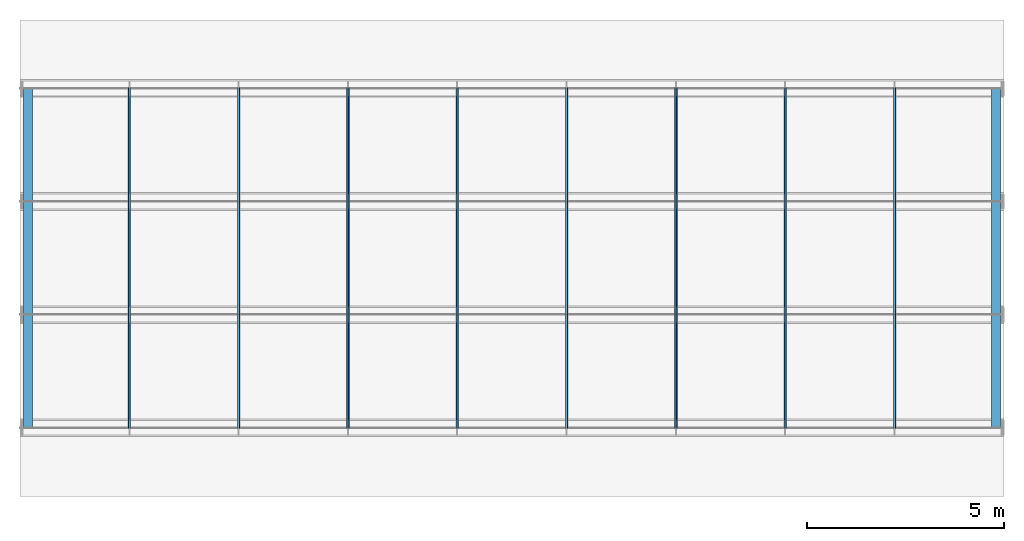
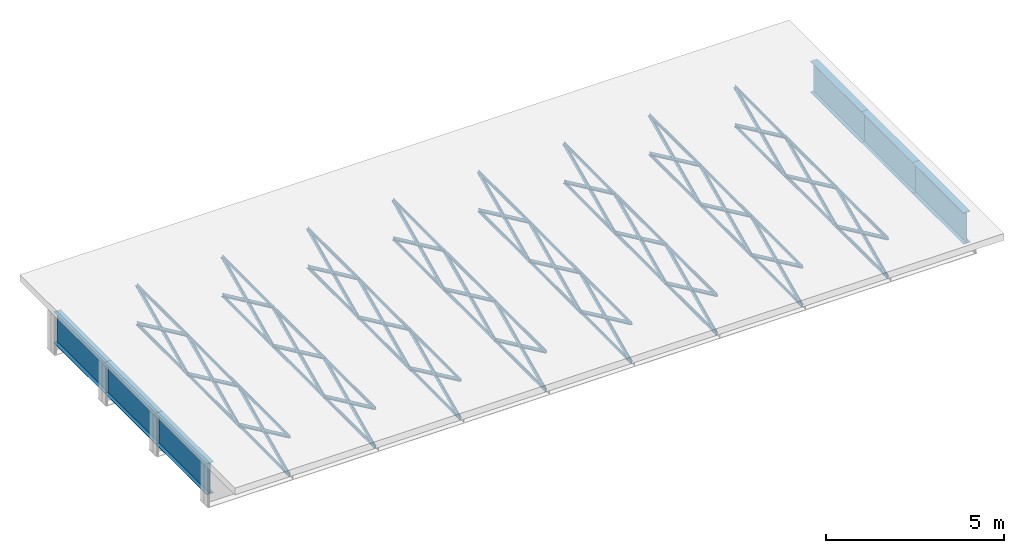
# One storey, part 1 of 10: 102 members.
"""IFC4 building model written with IfcOpenShell, lengths in metres."""

from ifc_helpers import new_model, si_unit, frame, origin, origin_with_axes, origin_2d_with_axis, place, context, subcontext, project, spatial, i_section, l_section, extrude, element, save


model = new_model("IFC4")

# Units and contexts
model_context = context("Model", 3, precision=1e-05, world=origin())
body_context = subcontext(model_context, "Body", "Model", "MODEL_VIEW")
ifc_project = project(units=[si_unit("LENGTHUNIT", "METRE"), si_unit("AREAUNIT", "SQUARE_METRE"), si_unit("VOLUMEUNIT", "CUBIC_METRE"), si_unit("PLANEANGLEUNIT", "RADIAN")], contexts=[model_context])

# Site, building, storey
site_placement = place(None, origin_with_axes())
site = spatial("IfcSite", under=ifc_project, at=site_placement, Name="Default Site")
building_placement = place(site_placement, origin_with_axes())
building = spatial("IfcBuilding", under=site, at=building_placement, Name="Bridge Structure")
storey_placement = place(building_placement, origin_with_axes())
storey = spatial("IfcBuildingStorey", under=building, at=storey_placement, Name="Superstructure")

# Members
for number, where, z_axis, x_axis, name in (
    (1, (0.2, -4.3125, 0.134), (0.0, 1.0, 0.0), (-1.0, 0.0, 0.0), "End Diaphragm"),
    (2, (0.2, -1.4375, 0.134), (0.0, 1.0, 0.0), (-1.0, 0.0, 0.0), "End Diaphragm"),
    (3, (0.2, 1.4375, 0.134), (0.0, 1.0, 0.0), (-1.0, 0.0, 0.0), "End Diaphragm"),
):
    element("IfcMember", number, at=place(storey_placement, frame(where, z_axis=z_axis, x_axis=x_axis)), inside=storey, Name=name, context=body_context, shape_type="SweptSolid", body=[
        extrude(i_section(OverallWidth=0.225, OverallDepth=1.069, WebThickness=0.012, FlangeThickness=0.012, at=origin_2d_with_axis()), origin_with_axes(), (0.0, 0.0, 1.0), 2.875),
    ])
for number, where, z_axis, x_axis, name in (
    (4, (2.7777777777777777, -4.3125, 0.6685), (0.0, 0.9067463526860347, -0.4216764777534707), (-1.0, 0.0, 0.0), "Diagonal Brace"),
    (5, (2.7777777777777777, -4.3125, -0.6685), (0.0, 0.9067463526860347, 0.4216764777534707), (-1.0, 0.0, 0.0), "Diagonal Brace"),
):
    element("IfcMember", number, at=place(storey_placement, frame(where, z_axis=z_axis, x_axis=x_axis)), inside=storey, Name=name, context=body_context, shape_type="SweptSolid", body=[
        extrude(l_section(Depth=0.1, Width=0.066, Thickness=0.008, at=origin_2d_with_axis()), origin_with_axes(), (0.0, 0.0, 1.0), 3.1706772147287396),
    ])
for number, where, z_axis, x_axis, name in (
    (6, (2.7777777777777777, -4.3125, -0.6685), (0.0, 1.0, 0.0), (-1.0, 0.0, 0.0), "Bottom Chord"),
    (7, (2.7777777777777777, -4.3125, 0.6685), (0.0, 1.0, 0.0), (-1.0, 0.0, 0.0), "Top Chord"),
):
    element("IfcMember", number, at=place(storey_placement, frame(where, z_axis=z_axis, x_axis=x_axis)), inside=storey, Name=name, context=body_context, shape_type="SweptSolid", body=[
        extrude(l_section(Depth=0.08600000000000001, Width=0.053, Thickness=0.008, at=origin_2d_with_axis()), origin_with_axes(), (0.0, 0.0, 1.0), 2.875),
    ])
for number, where, z_axis, x_axis, name in (
    (8, (2.7777777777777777, -1.4375, 0.6685), (0.0, 0.9067463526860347, -0.4216764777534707), (-1.0, 0.0, 0.0), "Diagonal Brace"),
    (9, (2.7777777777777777, -1.4375, -0.6685), (0.0, 0.9067463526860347, 0.4216764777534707), (-1.0, 0.0, 0.0), "Diagonal Brace"),
):
    element("IfcMember", number, at=place(storey_placement, frame(where, z_axis=z_axis, x_axis=x_axis)), inside=storey, Name=name, context=body_context, shape_type="SweptSolid", body=[
        extrude(l_section(Depth=0.1, Width=0.066, Thickness=0.008, at=origin_2d_with_axis()), origin_with_axes(), (0.0, 0.0, 1.0), 3.1706772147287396),
    ])
for number, where, z_axis, x_axis, name in (
    (10, (2.7777777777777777, -1.4375, -0.6685), (0.0, 1.0, 0.0), (-1.0, 0.0, 0.0), "Bottom Chord"),
    (11, (2.7777777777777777, -1.4375, 0.6685), (0.0, 1.0, 0.0), (-1.0, 0.0, 0.0), "Top Chord"),
):
    element("IfcMember", number, at=place(storey_placement, frame(where, z_axis=z_axis, x_axis=x_axis)), inside=storey, Name=name, context=body_context, shape_type="SweptSolid", body=[
        extrude(l_section(Depth=0.08600000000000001, Width=0.053, Thickness=0.008, at=origin_2d_with_axis()), origin_with_axes(), (0.0, 0.0, 1.0), 2.875),
    ])
for number, where, z_axis, x_axis, name in (
    (12, (2.7777777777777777, 1.4375, 0.6685), (0.0, 0.9067463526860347, -0.4216764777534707), (-1.0, 0.0, 0.0), "Diagonal Brace"),
    (13, (2.7777777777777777, 1.4375, -0.6685), (0.0, 0.9067463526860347, 0.4216764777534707), (-1.0, 0.0, 0.0), "Diagonal Brace"),
):
    element("IfcMember", number, at=place(storey_placement, frame(where, z_axis=z_axis, x_axis=x_axis)), inside=storey, Name=name, context=body_context, shape_type="SweptSolid", body=[
        extrude(l_section(Depth=0.1, Width=0.066, Thickness=0.008, at=origin_2d_with_axis()), origin_with_axes(), (0.0, 0.0, 1.0), 3.1706772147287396),
    ])
for number, where, z_axis, x_axis, name in (
    (14, (2.7777777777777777, 1.4375, -0.6685), (0.0, 1.0, 0.0), (-1.0, 0.0, 0.0), "Bottom Chord"),
    (15, (2.7777777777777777, 1.4375, 0.6685), (0.0, 1.0, 0.0), (-1.0, 0.0, 0.0), "Top Chord"),
):
    element("IfcMember", number, at=place(storey_placement, frame(where, z_axis=z_axis, x_axis=x_axis)), inside=storey, Name=name, context=body_context, shape_type="SweptSolid", body=[
        extrude(l_section(Depth=0.08600000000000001, Width=0.053, Thickness=0.008, at=origin_2d_with_axis()), origin_with_axes(), (0.0, 0.0, 1.0), 2.875),
    ])
for number, where, z_axis, x_axis, name in (
    (16, (5.555555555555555, -4.3125, 0.6685), (0.0, 0.9067463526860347, -0.4216764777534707), (-1.0, 0.0, 0.0), "Diagonal Brace"),
    (17, (5.555555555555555, -4.3125, -0.6685), (0.0, 0.9067463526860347, 0.4216764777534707), (-1.0, 0.0, 0.0), "Diagonal Brace"),
):
    element("IfcMember", number, at=place(storey_placement, frame(where, z_axis=z_axis, x_axis=x_axis)), inside=storey, Name=name, context=body_context, shape_type="SweptSolid", body=[
        extrude(l_section(Depth=0.1, Width=0.066, Thickness=0.008, at=origin_2d_with_axis()), origin_with_axes(), (0.0, 0.0, 1.0), 3.1706772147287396),
    ])
for number, where, z_axis, x_axis, name in (
    (18, (5.555555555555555, -4.3125, -0.6685), (0.0, 1.0, 0.0), (-1.0, 0.0, 0.0), "Bottom Chord"),
    (19, (5.555555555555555, -4.3125, 0.6685), (0.0, 1.0, 0.0), (-1.0, 0.0, 0.0), "Top Chord"),
):
    element("IfcMember", number, at=place(storey_placement, frame(where, z_axis=z_axis, x_axis=x_axis)), inside=storey, Name=name, context=body_context, shape_type="SweptSolid", body=[
        extrude(l_section(Depth=0.08600000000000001, Width=0.053, Thickness=0.008, at=origin_2d_with_axis()), origin_with_axes(), (0.0, 0.0, 1.0), 2.875),
    ])
for number, where, z_axis, x_axis, name in (
    (20, (5.555555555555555, -1.4375, 0.6685), (0.0, 0.9067463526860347, -0.4216764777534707), (-1.0, 0.0, 0.0), "Diagonal Brace"),
    (21, (5.555555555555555, -1.4375, -0.6685), (0.0, 0.9067463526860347, 0.4216764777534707), (-1.0, 0.0, 0.0), "Diagonal Brace"),
):
    element("IfcMember", number, at=place(storey_placement, frame(where, z_axis=z_axis, x_axis=x_axis)), inside=storey, Name=name, context=body_context, shape_type="SweptSolid", body=[
        extrude(l_section(Depth=0.1, Width=0.066, Thickness=0.008, at=origin_2d_with_axis()), origin_with_axes(), (0.0, 0.0, 1.0), 3.1706772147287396),
    ])
for number, where, z_axis, x_axis, name in (
    (22, (5.555555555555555, -1.4375, -0.6685), (0.0, 1.0, 0.0), (-1.0, 0.0, 0.0), "Bottom Chord"),
    (23, (5.555555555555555, -1.4375, 0.6685), (0.0, 1.0, 0.0), (-1.0, 0.0, 0.0), "Top Chord"),
):
    element("IfcMember", number, at=place(storey_placement, frame(where, z_axis=z_axis, x_axis=x_axis)), inside=storey, Name=name, context=body_context, shape_type="SweptSolid", body=[
        extrude(l_section(Depth=0.08600000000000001, Width=0.053, Thickness=0.008, at=origin_2d_with_axis()), origin_with_axes(), (0.0, 0.0, 1.0), 2.875),
    ])
for number, where, z_axis, x_axis, name in (
    (24, (5.555555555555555, 1.4375, 0.6685), (0.0, 0.9067463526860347, -0.4216764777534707), (-1.0, 0.0, 0.0), "Diagonal Brace"),
    (25, (5.555555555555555, 1.4375, -0.6685), (0.0, 0.9067463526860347, 0.4216764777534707), (-1.0, 0.0, 0.0), "Diagonal Brace"),
):
    element("IfcMember", number, at=place(storey_placement, frame(where, z_axis=z_axis, x_axis=x_axis)), inside=storey, Name=name, context=body_context, shape_type="SweptSolid", body=[
        extrude(l_section(Depth=0.1, Width=0.066, Thickness=0.008, at=origin_2d_with_axis()), origin_with_axes(), (0.0, 0.0, 1.0), 3.1706772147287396),
    ])
for number, where, z_axis, x_axis, name in (
    (26, (5.555555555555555, 1.4375, -0.6685), (0.0, 1.0, 0.0), (-1.0, 0.0, 0.0), "Bottom Chord"),
    (27, (5.555555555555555, 1.4375, 0.6685), (0.0, 1.0, 0.0), (-1.0, 0.0, 0.0), "Top Chord"),
):
    element("IfcMember", number, at=place(storey_placement, frame(where, z_axis=z_axis, x_axis=x_axis)), inside=storey, Name=name, context=body_context, shape_type="SweptSolid", body=[
        extrude(l_section(Depth=0.08600000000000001, Width=0.053, Thickness=0.008, at=origin_2d_with_axis()), origin_with_axes(), (0.0, 0.0, 1.0), 2.875),
    ])
for number, where, z_axis, x_axis, name in (
    (28, (8.333333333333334, -4.3125, 0.6685), (0.0, 0.9067463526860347, -0.4216764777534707), (-1.0, 0.0, 0.0), "Diagonal Brace"),
    (29, (8.333333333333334, -4.3125, -0.6685), (0.0, 0.9067463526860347, 0.4216764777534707), (-1.0, 0.0, 0.0), "Diagonal Brace"),
):
    element("IfcMember", number, at=place(storey_placement, frame(where, z_axis=z_axis, x_axis=x_axis)), inside=storey, Name=name, context=body_context, shape_type="SweptSolid", body=[
        extrude(l_section(Depth=0.1, Width=0.066, Thickness=0.008, at=origin_2d_with_axis()), origin_with_axes(), (0.0, 0.0, 1.0), 3.1706772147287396),
    ])
for number, where, z_axis, x_axis, name in (
    (30, (8.333333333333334, -4.3125, -0.6685), (0.0, 1.0, 0.0), (-1.0, 0.0, 0.0), "Bottom Chord"),
    (31, (8.333333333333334, -4.3125, 0.6685), (0.0, 1.0, 0.0), (-1.0, 0.0, 0.0), "Top Chord"),
):
    element("IfcMember", number, at=place(storey_placement, frame(where, z_axis=z_axis, x_axis=x_axis)), inside=storey, Name=name, context=body_context, shape_type="SweptSolid", body=[
        extrude(l_section(Depth=0.08600000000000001, Width=0.053, Thickness=0.008, at=origin_2d_with_axis()), origin_with_axes(), (0.0, 0.0, 1.0), 2.875),
    ])
for number, where, z_axis, x_axis, name in (
    (32, (8.333333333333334, -1.4375, 0.6685), (0.0, 0.9067463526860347, -0.4216764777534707), (-1.0, 0.0, 0.0), "Diagonal Brace"),
    (33, (8.333333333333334, -1.4375, -0.6685), (0.0, 0.9067463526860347, 0.4216764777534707), (-1.0, 0.0, 0.0), "Diagonal Brace"),
):
    element("IfcMember", number, at=place(storey_placement, frame(where, z_axis=z_axis, x_axis=x_axis)), inside=storey, Name=name, context=body_context, shape_type="SweptSolid", body=[
        extrude(l_section(Depth=0.1, Width=0.066, Thickness=0.008, at=origin_2d_with_axis()), origin_with_axes(), (0.0, 0.0, 1.0), 3.1706772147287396),
    ])
for number, where, z_axis, x_axis, name in (
    (34, (8.333333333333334, -1.4375, -0.6685), (0.0, 1.0, 0.0), (-1.0, 0.0, 0.0), "Bottom Chord"),
    (35, (8.333333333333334, -1.4375, 0.6685), (0.0, 1.0, 0.0), (-1.0, 0.0, 0.0), "Top Chord"),
):
    element("IfcMember", number, at=place(storey_placement, frame(where, z_axis=z_axis, x_axis=x_axis)), inside=storey, Name=name, context=body_context, shape_type="SweptSolid", body=[
        extrude(l_section(Depth=0.08600000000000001, Width=0.053, Thickness=0.008, at=origin_2d_with_axis()), origin_with_axes(), (0.0, 0.0, 1.0), 2.875),
    ])
for number, where, z_axis, x_axis, name in (
    (36, (8.333333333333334, 1.4375, 0.6685), (0.0, 0.9067463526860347, -0.4216764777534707), (-1.0, 0.0, 0.0), "Diagonal Brace"),
    (37, (8.333333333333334, 1.4375, -0.6685), (0.0, 0.9067463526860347, 0.4216764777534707), (-1.0, 0.0, 0.0), "Diagonal Brace"),
):
    element("IfcMember", number, at=place(storey_placement, frame(where, z_axis=z_axis, x_axis=x_axis)), inside=storey, Name=name, context=body_context, shape_type="SweptSolid", body=[
        extrude(l_section(Depth=0.1, Width=0.066, Thickness=0.008, at=origin_2d_with_axis()), origin_with_axes(), (0.0, 0.0, 1.0), 3.1706772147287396),
    ])
for number, where, z_axis, x_axis, name in (
    (38, (8.333333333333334, 1.4375, -0.6685), (0.0, 1.0, 0.0), (-1.0, 0.0, 0.0), "Bottom Chord"),
    (39, (8.333333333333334, 1.4375, 0.6685), (0.0, 1.0, 0.0), (-1.0, 0.0, 0.0), "Top Chord"),
):
    element("IfcMember", number, at=place(storey_placement, frame(where, z_axis=z_axis, x_axis=x_axis)), inside=storey, Name=name, context=body_context, shape_type="SweptSolid", body=[
        extrude(l_section(Depth=0.08600000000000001, Width=0.053, Thickness=0.008, at=origin_2d_with_axis()), origin_with_axes(), (0.0, 0.0, 1.0), 2.875),
    ])
for number, where, z_axis, x_axis, name in (
    (40, (11.11111111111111, -4.3125, 0.6685), (0.0, 0.9067463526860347, -0.4216764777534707), (-1.0, 0.0, 0.0), "Diagonal Brace"),
    (41, (11.11111111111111, -4.3125, -0.6685), (0.0, 0.9067463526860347, 0.4216764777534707), (-1.0, 0.0, 0.0), "Diagonal Brace"),
):
    element("IfcMember", number, at=place(storey_placement, frame(where, z_axis=z_axis, x_axis=x_axis)), inside=storey, Name=name, context=body_context, shape_type="SweptSolid", body=[
        extrude(l_section(Depth=0.1, Width=0.066, Thickness=0.008, at=origin_2d_with_axis()), origin_with_axes(), (0.0, 0.0, 1.0), 3.1706772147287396),
    ])
for number, where, z_axis, x_axis, name in (
    (42, (11.11111111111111, -4.3125, -0.6685), (0.0, 1.0, 0.0), (-1.0, 0.0, 0.0), "Bottom Chord"),
    (43, (11.11111111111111, -4.3125, 0.6685), (0.0, 1.0, 0.0), (-1.0, 0.0, 0.0), "Top Chord"),
):
    element("IfcMember", number, at=place(storey_placement, frame(where, z_axis=z_axis, x_axis=x_axis)), inside=storey, Name=name, context=body_context, shape_type="SweptSolid", body=[
        extrude(l_section(Depth=0.08600000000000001, Width=0.053, Thickness=0.008, at=origin_2d_with_axis()), origin_with_axes(), (0.0, 0.0, 1.0), 2.875),
    ])
for number, where, z_axis, x_axis, name in (
    (44, (11.11111111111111, -1.4375, 0.6685), (0.0, 0.9067463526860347, -0.4216764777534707), (-1.0, 0.0, 0.0), "Diagonal Brace"),
    (45, (11.11111111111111, -1.4375, -0.6685), (0.0, 0.9067463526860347, 0.4216764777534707), (-1.0, 0.0, 0.0), "Diagonal Brace"),
):
    element("IfcMember", number, at=place(storey_placement, frame(where, z_axis=z_axis, x_axis=x_axis)), inside=storey, Name=name, context=body_context, shape_type="SweptSolid", body=[
        extrude(l_section(Depth=0.1, Width=0.066, Thickness=0.008, at=origin_2d_with_axis()), origin_with_axes(), (0.0, 0.0, 1.0), 3.1706772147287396),
    ])
for number, where, z_axis, x_axis, name in (
    (46, (11.11111111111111, -1.4375, -0.6685), (0.0, 1.0, 0.0), (-1.0, 0.0, 0.0), "Bottom Chord"),
    (47, (11.11111111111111, -1.4375, 0.6685), (0.0, 1.0, 0.0), (-1.0, 0.0, 0.0), "Top Chord"),
):
    element("IfcMember", number, at=place(storey_placement, frame(where, z_axis=z_axis, x_axis=x_axis)), inside=storey, Name=name, context=body_context, shape_type="SweptSolid", body=[
        extrude(l_section(Depth=0.08600000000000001, Width=0.053, Thickness=0.008, at=origin_2d_with_axis()), origin_with_axes(), (0.0, 0.0, 1.0), 2.875),
    ])
for number, where, z_axis, x_axis, name in (
    (48, (11.11111111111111, 1.4375, 0.6685), (0.0, 0.9067463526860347, -0.4216764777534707), (-1.0, 0.0, 0.0), "Diagonal Brace"),
    (49, (11.11111111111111, 1.4375, -0.6685), (0.0, 0.9067463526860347, 0.4216764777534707), (-1.0, 0.0, 0.0), "Diagonal Brace"),
):
    element("IfcMember", number, at=place(storey_placement, frame(where, z_axis=z_axis, x_axis=x_axis)), inside=storey, Name=name, context=body_context, shape_type="SweptSolid", body=[
        extrude(l_section(Depth=0.1, Width=0.066, Thickness=0.008, at=origin_2d_with_axis()), origin_with_axes(), (0.0, 0.0, 1.0), 3.1706772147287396),
    ])
for number, where, z_axis, x_axis, name in (
    (50, (11.11111111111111, 1.4375, -0.6685), (0.0, 1.0, 0.0), (-1.0, 0.0, 0.0), "Bottom Chord"),
    (51, (11.11111111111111, 1.4375, 0.6685), (0.0, 1.0, 0.0), (-1.0, 0.0, 0.0), "Top Chord"),
):
    element("IfcMember", number, at=place(storey_placement, frame(where, z_axis=z_axis, x_axis=x_axis)), inside=storey, Name=name, context=body_context, shape_type="SweptSolid", body=[
        extrude(l_section(Depth=0.08600000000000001, Width=0.053, Thickness=0.008, at=origin_2d_with_axis()), origin_with_axes(), (0.0, 0.0, 1.0), 2.875),
    ])
for number, where, z_axis, x_axis, name in (
    (52, (13.88888888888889, -4.3125, 0.6685), (0.0, 0.9067463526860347, -0.4216764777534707), (-1.0, 0.0, 0.0), "Diagonal Brace"),
    (53, (13.88888888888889, -4.3125, -0.6685), (0.0, 0.9067463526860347, 0.4216764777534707), (-1.0, 0.0, 0.0), "Diagonal Brace"),
):
    element("IfcMember", number, at=place(storey_placement, frame(where, z_axis=z_axis, x_axis=x_axis)), inside=storey, Name=name, context=body_context, shape_type="SweptSolid", body=[
        extrude(l_section(Depth=0.1, Width=0.066, Thickness=0.008, at=origin_2d_with_axis()), origin_with_axes(), (0.0, 0.0, 1.0), 3.1706772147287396),
    ])
for number, where, z_axis, x_axis, name in (
    (54, (13.88888888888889, -4.3125, -0.6685), (0.0, 1.0, 0.0), (-1.0, 0.0, 0.0), "Bottom Chord"),
    (55, (13.88888888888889, -4.3125, 0.6685), (0.0, 1.0, 0.0), (-1.0, 0.0, 0.0), "Top Chord"),
):
    element("IfcMember", number, at=place(storey_placement, frame(where, z_axis=z_axis, x_axis=x_axis)), inside=storey, Name=name, context=body_context, shape_type="SweptSolid", body=[
        extrude(l_section(Depth=0.08600000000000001, Width=0.053, Thickness=0.008, at=origin_2d_with_axis()), origin_with_axes(), (0.0, 0.0, 1.0), 2.875),
    ])
for number, where, z_axis, x_axis, name in (
    (56, (13.88888888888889, -1.4375, 0.6685), (0.0, 0.9067463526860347, -0.4216764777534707), (-1.0, 0.0, 0.0), "Diagonal Brace"),
    (57, (13.88888888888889, -1.4375, -0.6685), (0.0, 0.9067463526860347, 0.4216764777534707), (-1.0, 0.0, 0.0), "Diagonal Brace"),
):
    element("IfcMember", number, at=place(storey_placement, frame(where, z_axis=z_axis, x_axis=x_axis)), inside=storey, Name=name, context=body_context, shape_type="SweptSolid", body=[
        extrude(l_section(Depth=0.1, Width=0.066, Thickness=0.008, at=origin_2d_with_axis()), origin_with_axes(), (0.0, 0.0, 1.0), 3.1706772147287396),
    ])
for number, where, z_axis, x_axis, name in (
    (58, (13.88888888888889, -1.4375, -0.6685), (0.0, 1.0, 0.0), (-1.0, 0.0, 0.0), "Bottom Chord"),
    (59, (13.88888888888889, -1.4375, 0.6685), (0.0, 1.0, 0.0), (-1.0, 0.0, 0.0), "Top Chord"),
):
    element("IfcMember", number, at=place(storey_placement, frame(where, z_axis=z_axis, x_axis=x_axis)), inside=storey, Name=name, context=body_context, shape_type="SweptSolid", body=[
        extrude(l_section(Depth=0.08600000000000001, Width=0.053, Thickness=0.008, at=origin_2d_with_axis()), origin_with_axes(), (0.0, 0.0, 1.0), 2.875),
    ])
for number, where, z_axis, x_axis, name in (
    (60, (13.88888888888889, 1.4375, 0.6685), (0.0, 0.9067463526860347, -0.4216764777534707), (-1.0, 0.0, 0.0), "Diagonal Brace"),
    (61, (13.88888888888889, 1.4375, -0.6685), (0.0, 0.9067463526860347, 0.4216764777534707), (-1.0, 0.0, 0.0), "Diagonal Brace"),
):
    element("IfcMember", number, at=place(storey_placement, frame(where, z_axis=z_axis, x_axis=x_axis)), inside=storey, Name=name, context=body_context, shape_type="SweptSolid", body=[
        extrude(l_section(Depth=0.1, Width=0.066, Thickness=0.008, at=origin_2d_with_axis()), origin_with_axes(), (0.0, 0.0, 1.0), 3.1706772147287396),
    ])
for number, where, z_axis, x_axis, name in (
    (62, (13.88888888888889, 1.4375, -0.6685), (0.0, 1.0, 0.0), (-1.0, 0.0, 0.0), "Bottom Chord"),
    (63, (13.88888888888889, 1.4375, 0.6685), (0.0, 1.0, 0.0), (-1.0, 0.0, 0.0), "Top Chord"),
):
    element("IfcMember", number, at=place(storey_placement, frame(where, z_axis=z_axis, x_axis=x_axis)), inside=storey, Name=name, context=body_context, shape_type="SweptSolid", body=[
        extrude(l_section(Depth=0.08600000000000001, Width=0.053, Thickness=0.008, at=origin_2d_with_axis()), origin_with_axes(), (0.0, 0.0, 1.0), 2.875),
    ])
for number, where, z_axis, x_axis, name in (
    (64, (16.666666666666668, -4.3125, 0.6685), (0.0, 0.9067463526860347, -0.4216764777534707), (-1.0, 0.0, 0.0), "Diagonal Brace"),
    (65, (16.666666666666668, -4.3125, -0.6685), (0.0, 0.9067463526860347, 0.4216764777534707), (-1.0, 0.0, 0.0), "Diagonal Brace"),
):
    element("IfcMember", number, at=place(storey_placement, frame(where, z_axis=z_axis, x_axis=x_axis)), inside=storey, Name=name, context=body_context, shape_type="SweptSolid", body=[
        extrude(l_section(Depth=0.1, Width=0.066, Thickness=0.008, at=origin_2d_with_axis()), origin_with_axes(), (0.0, 0.0, 1.0), 3.1706772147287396),
    ])
for number, where, z_axis, x_axis, name in (
    (66, (16.666666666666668, -4.3125, -0.6685), (0.0, 1.0, 0.0), (-1.0, 0.0, 0.0), "Bottom Chord"),
    (67, (16.666666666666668, -4.3125, 0.6685), (0.0, 1.0, 0.0), (-1.0, 0.0, 0.0), "Top Chord"),
):
    element("IfcMember", number, at=place(storey_placement, frame(where, z_axis=z_axis, x_axis=x_axis)), inside=storey, Name=name, context=body_context, shape_type="SweptSolid", body=[
        extrude(l_section(Depth=0.08600000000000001, Width=0.053, Thickness=0.008, at=origin_2d_with_axis()), origin_with_axes(), (0.0, 0.0, 1.0), 2.875),
    ])
for number, where, z_axis, x_axis, name in (
    (68, (16.666666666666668, -1.4375, 0.6685), (0.0, 0.9067463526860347, -0.4216764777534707), (-1.0, 0.0, 0.0), "Diagonal Brace"),
    (69, (16.666666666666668, -1.4375, -0.6685), (0.0, 0.9067463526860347, 0.4216764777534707), (-1.0, 0.0, 0.0), "Diagonal Brace"),
):
    element("IfcMember", number, at=place(storey_placement, frame(where, z_axis=z_axis, x_axis=x_axis)), inside=storey, Name=name, context=body_context, shape_type="SweptSolid", body=[
        extrude(l_section(Depth=0.1, Width=0.066, Thickness=0.008, at=origin_2d_with_axis()), origin_with_axes(), (0.0, 0.0, 1.0), 3.1706772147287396),
    ])
for number, where, z_axis, x_axis, name in (
    (70, (16.666666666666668, -1.4375, -0.6685), (0.0, 1.0, 0.0), (-1.0, 0.0, 0.0), "Bottom Chord"),
    (71, (16.666666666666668, -1.4375, 0.6685), (0.0, 1.0, 0.0), (-1.0, 0.0, 0.0), "Top Chord"),
):
    element("IfcMember", number, at=place(storey_placement, frame(where, z_axis=z_axis, x_axis=x_axis)), inside=storey, Name=name, context=body_context, shape_type="SweptSolid", body=[
        extrude(l_section(Depth=0.08600000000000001, Width=0.053, Thickness=0.008, at=origin_2d_with_axis()), origin_with_axes(), (0.0, 0.0, 1.0), 2.875),
    ])
for number, where, z_axis, x_axis, name in (
    (72, (16.666666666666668, 1.4375, 0.6685), (0.0, 0.9067463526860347, -0.4216764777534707), (-1.0, 0.0, 0.0), "Diagonal Brace"),
    (73, (16.666666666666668, 1.4375, -0.6685), (0.0, 0.9067463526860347, 0.4216764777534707), (-1.0, 0.0, 0.0), "Diagonal Brace"),
):
    element("IfcMember", number, at=place(storey_placement, frame(where, z_axis=z_axis, x_axis=x_axis)), inside=storey, Name=name, context=body_context, shape_type="SweptSolid", body=[
        extrude(l_section(Depth=0.1, Width=0.066, Thickness=0.008, at=origin_2d_with_axis()), origin_with_axes(), (0.0, 0.0, 1.0), 3.1706772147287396),
    ])
for number, where, z_axis, x_axis, name in (
    (74, (16.666666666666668, 1.4375, -0.6685), (0.0, 1.0, 0.0), (-1.0, 0.0, 0.0), "Bottom Chord"),
    (75, (16.666666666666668, 1.4375, 0.6685), (0.0, 1.0, 0.0), (-1.0, 0.0, 0.0), "Top Chord"),
):
    element("IfcMember", number, at=place(storey_placement, frame(where, z_axis=z_axis, x_axis=x_axis)), inside=storey, Name=name, context=body_context, shape_type="SweptSolid", body=[
        extrude(l_section(Depth=0.08600000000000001, Width=0.053, Thickness=0.008, at=origin_2d_with_axis()), origin_with_axes(), (0.0, 0.0, 1.0), 2.875),
    ])
for number, where, z_axis, x_axis, name in (
    (76, (19.444444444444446, -4.3125, 0.6685), (0.0, 0.9067463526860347, -0.4216764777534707), (-1.0, 0.0, 0.0), "Diagonal Brace"),
    (77, (19.444444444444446, -4.3125, -0.6685), (0.0, 0.9067463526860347, 0.4216764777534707), (-1.0, 0.0, 0.0), "Diagonal Brace"),
):
    element("IfcMember", number, at=place(storey_placement, frame(where, z_axis=z_axis, x_axis=x_axis)), inside=storey, Name=name, context=body_context, shape_type="SweptSolid", body=[
        extrude(l_section(Depth=0.1, Width=0.066, Thickness=0.008, at=origin_2d_with_axis()), origin_with_axes(), (0.0, 0.0, 1.0), 3.1706772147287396),
    ])
for number, where, z_axis, x_axis, name in (
    (78, (19.444444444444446, -4.3125, -0.6685), (0.0, 1.0, 0.0), (-1.0, 0.0, 0.0), "Bottom Chord"),
    (79, (19.444444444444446, -4.3125, 0.6685), (0.0, 1.0, 0.0), (-1.0, 0.0, 0.0), "Top Chord"),
):
    element("IfcMember", number, at=place(storey_placement, frame(where, z_axis=z_axis, x_axis=x_axis)), inside=storey, Name=name, context=body_context, shape_type="SweptSolid", body=[
        extrude(l_section(Depth=0.08600000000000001, Width=0.053, Thickness=0.008, at=origin_2d_with_axis()), origin_with_axes(), (0.0, 0.0, 1.0), 2.875),
    ])
for number, where, z_axis, x_axis, name in (
    (80, (19.444444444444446, -1.4375, 0.6685), (0.0, 0.9067463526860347, -0.4216764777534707), (-1.0, 0.0, 0.0), "Diagonal Brace"),
    (81, (19.444444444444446, -1.4375, -0.6685), (0.0, 0.9067463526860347, 0.4216764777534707), (-1.0, 0.0, 0.0), "Diagonal Brace"),
):
    element("IfcMember", number, at=place(storey_placement, frame(where, z_axis=z_axis, x_axis=x_axis)), inside=storey, Name=name, context=body_context, shape_type="SweptSolid", body=[
        extrude(l_section(Depth=0.1, Width=0.066, Thickness=0.008, at=origin_2d_with_axis()), origin_with_axes(), (0.0, 0.0, 1.0), 3.1706772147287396),
    ])
for number, where, z_axis, x_axis, name in (
    (82, (19.444444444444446, -1.4375, -0.6685), (0.0, 1.0, 0.0), (-1.0, 0.0, 0.0), "Bottom Chord"),
    (83, (19.444444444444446, -1.4375, 0.6685), (0.0, 1.0, 0.0), (-1.0, 0.0, 0.0), "Top Chord"),
):
    element("IfcMember", number, at=place(storey_placement, frame(where, z_axis=z_axis, x_axis=x_axis)), inside=storey, Name=name, context=body_context, shape_type="SweptSolid", body=[
        extrude(l_section(Depth=0.08600000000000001, Width=0.053, Thickness=0.008, at=origin_2d_with_axis()), origin_with_axes(), (0.0, 0.0, 1.0), 2.875),
    ])
for number, where, z_axis, x_axis, name in (
    (84, (19.444444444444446, 1.4375, 0.6685), (0.0, 0.9067463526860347, -0.4216764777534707), (-1.0, 0.0, 0.0), "Diagonal Brace"),
    (85, (19.444444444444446, 1.4375, -0.6685), (0.0, 0.9067463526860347, 0.4216764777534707), (-1.0, 0.0, 0.0), "Diagonal Brace"),
):
    element("IfcMember", number, at=place(storey_placement, frame(where, z_axis=z_axis, x_axis=x_axis)), inside=storey, Name=name, context=body_context, shape_type="SweptSolid", body=[
        extrude(l_section(Depth=0.1, Width=0.066, Thickness=0.008, at=origin_2d_with_axis()), origin_with_axes(), (0.0, 0.0, 1.0), 3.1706772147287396),
    ])
for number, where, z_axis, x_axis, name in (
    (86, (19.444444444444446, 1.4375, -0.6685), (0.0, 1.0, 0.0), (-1.0, 0.0, 0.0), "Bottom Chord"),
    (87, (19.444444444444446, 1.4375, 0.6685), (0.0, 1.0, 0.0), (-1.0, 0.0, 0.0), "Top Chord"),
):
    element("IfcMember", number, at=place(storey_placement, frame(where, z_axis=z_axis, x_axis=x_axis)), inside=storey, Name=name, context=body_context, shape_type="SweptSolid", body=[
        extrude(l_section(Depth=0.08600000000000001, Width=0.053, Thickness=0.008, at=origin_2d_with_axis()), origin_with_axes(), (0.0, 0.0, 1.0), 2.875),
    ])
for number, where, z_axis, x_axis, name in (
    (88, (22.22222222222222, -4.3125, 0.6685), (0.0, 0.9067463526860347, -0.4216764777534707), (-1.0, 0.0, 0.0), "Diagonal Brace"),
    (89, (22.22222222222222, -4.3125, -0.6685), (0.0, 0.9067463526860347, 0.4216764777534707), (-1.0, 0.0, 0.0), "Diagonal Brace"),
):
    element("IfcMember", number, at=place(storey_placement, frame(where, z_axis=z_axis, x_axis=x_axis)), inside=storey, Name=name, context=body_context, shape_type="SweptSolid", body=[
        extrude(l_section(Depth=0.1, Width=0.066, Thickness=0.008, at=origin_2d_with_axis()), origin_with_axes(), (0.0, 0.0, 1.0), 3.1706772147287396),
    ])
for number, where, z_axis, x_axis, name in (
    (90, (22.22222222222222, -4.3125, -0.6685), (0.0, 1.0, 0.0), (-1.0, 0.0, 0.0), "Bottom Chord"),
    (91, (22.22222222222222, -4.3125, 0.6685), (0.0, 1.0, 0.0), (-1.0, 0.0, 0.0), "Top Chord"),
):
    element("IfcMember", number, at=place(storey_placement, frame(where, z_axis=z_axis, x_axis=x_axis)), inside=storey, Name=name, context=body_context, shape_type="SweptSolid", body=[
        extrude(l_section(Depth=0.08600000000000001, Width=0.053, Thickness=0.008, at=origin_2d_with_axis()), origin_with_axes(), (0.0, 0.0, 1.0), 2.875),
    ])
for number, where, z_axis, x_axis, name in (
    (92, (22.22222222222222, -1.4375, 0.6685), (0.0, 0.9067463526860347, -0.4216764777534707), (-1.0, 0.0, 0.0), "Diagonal Brace"),
    (93, (22.22222222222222, -1.4375, -0.6685), (0.0, 0.9067463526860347, 0.4216764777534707), (-1.0, 0.0, 0.0), "Diagonal Brace"),
):
    element("IfcMember", number, at=place(storey_placement, frame(where, z_axis=z_axis, x_axis=x_axis)), inside=storey, Name=name, context=body_context, shape_type="SweptSolid", body=[
        extrude(l_section(Depth=0.1, Width=0.066, Thickness=0.008, at=origin_2d_with_axis()), origin_with_axes(), (0.0, 0.0, 1.0), 3.1706772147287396),
    ])
for number, where, z_axis, x_axis, name in (
    (94, (22.22222222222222, -1.4375, -0.6685), (0.0, 1.0, 0.0), (-1.0, 0.0, 0.0), "Bottom Chord"),
    (95, (22.22222222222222, -1.4375, 0.6685), (0.0, 1.0, 0.0), (-1.0, 0.0, 0.0), "Top Chord"),
):
    element("IfcMember", number, at=place(storey_placement, frame(where, z_axis=z_axis, x_axis=x_axis)), inside=storey, Name=name, context=body_context, shape_type="SweptSolid", body=[
        extrude(l_section(Depth=0.08600000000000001, Width=0.053, Thickness=0.008, at=origin_2d_with_axis()), origin_with_axes(), (0.0, 0.0, 1.0), 2.875),
    ])
for number, where, z_axis, x_axis, name in (
    (96, (22.22222222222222, 1.4375, 0.6685), (0.0, 0.9067463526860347, -0.4216764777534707), (-1.0, 0.0, 0.0), "Diagonal Brace"),
    (97, (22.22222222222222, 1.4375, -0.6685), (0.0, 0.9067463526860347, 0.4216764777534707), (-1.0, 0.0, 0.0), "Diagonal Brace"),
):
    element("IfcMember", number, at=place(storey_placement, frame(where, z_axis=z_axis, x_axis=x_axis)), inside=storey, Name=name, context=body_context, shape_type="SweptSolid", body=[
        extrude(l_section(Depth=0.1, Width=0.066, Thickness=0.008, at=origin_2d_with_axis()), origin_with_axes(), (0.0, 0.0, 1.0), 3.1706772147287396),
    ])
for number, where, z_axis, x_axis, name in (
    (98, (22.22222222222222, 1.4375, -0.6685), (0.0, 1.0, 0.0), (-1.0, 0.0, 0.0), "Bottom Chord"),
    (99, (22.22222222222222, 1.4375, 0.6685), (0.0, 1.0, 0.0), (-1.0, 0.0, 0.0), "Top Chord"),
):
    element("IfcMember", number, at=place(storey_placement, frame(where, z_axis=z_axis, x_axis=x_axis)), inside=storey, Name=name, context=body_context, shape_type="SweptSolid", body=[
        extrude(l_section(Depth=0.08600000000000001, Width=0.053, Thickness=0.008, at=origin_2d_with_axis()), origin_with_axes(), (0.0, 0.0, 1.0), 2.875),
    ])
for number, where, z_axis, x_axis, name in (
    (100, (24.8, -4.3125, 0.134), (0.0, 1.0, 0.0), (-1.0, 0.0, 0.0), "End Diaphragm"),
    (101, (24.8, -1.4375, 0.134), (0.0, 1.0, 0.0), (-1.0, 0.0, 0.0), "End Diaphragm"),
    (102, (24.8, 1.4375, 0.134), (0.0, 1.0, 0.0), (-1.0, 0.0, 0.0), "End Diaphragm"),
):
    element("IfcMember", number, at=place(storey_placement, frame(where, z_axis=z_axis, x_axis=x_axis)), inside=storey, Name=name, context=body_context, shape_type="SweptSolid", body=[
        extrude(i_section(OverallWidth=0.225, OverallDepth=1.069, WebThickness=0.012, FlangeThickness=0.012, at=origin_2d_with_axis()), origin_with_axes(), (0.0, 0.0, 1.0), 2.875),
    ])

save(model, "model.ifc")
